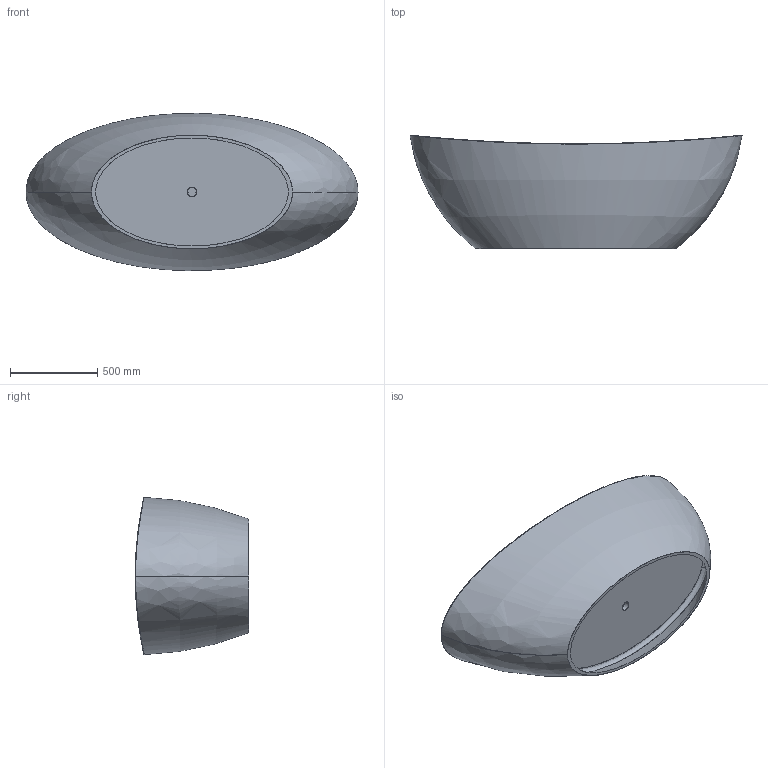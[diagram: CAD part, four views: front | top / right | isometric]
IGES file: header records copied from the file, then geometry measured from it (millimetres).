
Start section: SolidWorks IGES file using analytic representation for surfaces
Global section: file name: D:\Users\M.Szymanski\Desktop\Wanny\Namur\03. do przegrania\WOW_NAMUR_90x190.IGS; native system: SolidWorks 2011; preprocessor: SolidWorks 2011; author: M.Szymanski; date: 180409.140232; units: millimetre
Bounding box: 1899.29 x 649.73 x 899.59 mm (x, y, z)
Surface area: 6458443.7 mm2 (no closed solid volume)
Topology: 0 solids, 0 shells, 44 faces, 1275 edges, 1271 vertices
Faces by surface type: bspline 32, revolution 12
